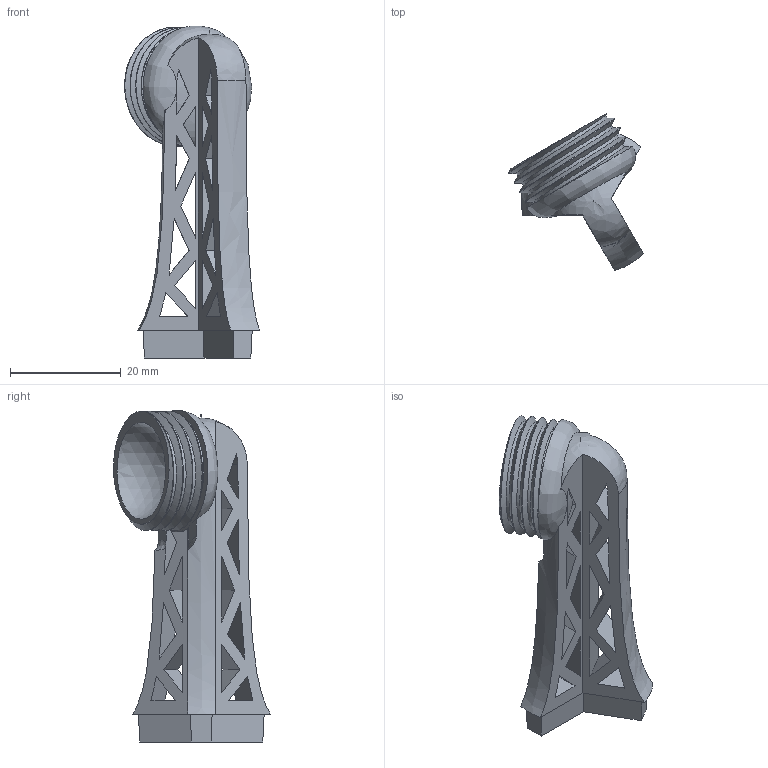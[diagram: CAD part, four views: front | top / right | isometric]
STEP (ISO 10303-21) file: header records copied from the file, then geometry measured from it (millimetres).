
FILE_DESCRIPTION(/* description */ (''),/* implementation_level */ '2;1');
FILE_NAME(/* name */ 'C:/Users/arthu/Desktop/3D/Porte portap/step_files/Tripod head.step',/* time_stamp */ '2021-01-11T17:18:53+01:00',/* author */ (''),/* organization */ (''),/* preprocessor_version */ 'ST-DEVELOPER v18.1',/* originating_system */ 'Autodesk Translation Framework v9.7.1.1290',/* authorisation */ '');
FILE_SCHEMA (('AUTOMOTIVE_DESIGN { 1 0 10303 214 3 1 1 }'));
Length unit declared in the file: millimetre
Products named in the file (1): Tripod head
Bounding box: 24.32 x 28.28 x 59.83 mm (x, y, z)
Volume: 7947 mm3; surface area: 6295.1 mm2
Topology: 1 solids, 1 shells, 114 faces, 345 edges, 234 vertices
Faces by surface type: plane 72, bspline 23, cylinder 14, cone 4, sphere 1
Full cylindrical faces by diameter (mm): 0.098 x1, 19.234 x3, 21.522 x3
Entity records: 6815 total; most frequent: CARTESIAN_POINT 3858, ORIENTED_EDGE 690, DIRECTION 445, EDGE_CURVE 345, VERTEX_POINT 234, LINE 211, VECTOR 211, EDGE_LOOP 153
